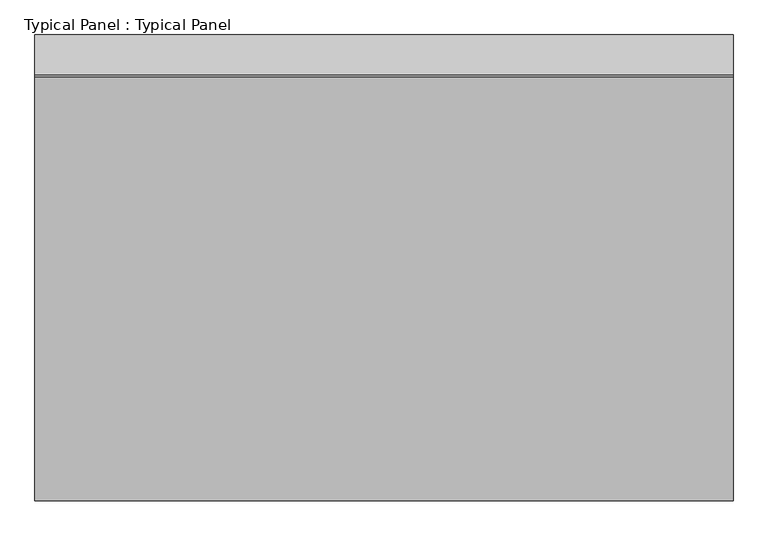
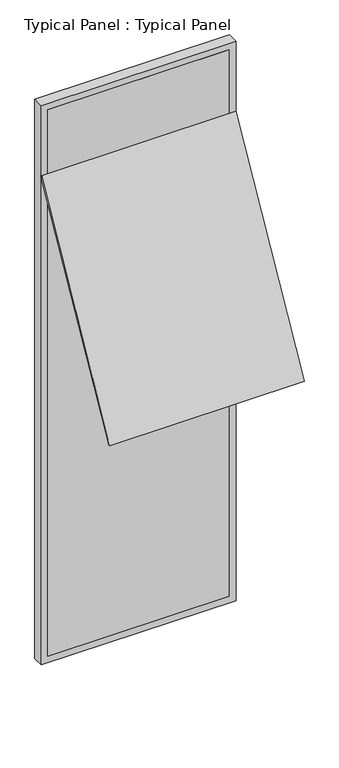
"""IFC4 building model written with IfcOpenShell, lengths in millimetres: plate geometry, Typical Panel : Typical Panel."""

from ifc_helpers import new_model, si_unit, frame, origin, place, context, project, spatial, polyline, outline, extrude, source, transform, mapped, element, save


def typical_panel_typical_panel_8e1d2641(model_context):
    return source(origin(), model_context, "Body", "SweptSolid", [
        extrude(outline(polyline([(0.0, -10.0), (0.0, 0.0), (1317.1916898, 0.0), (1317.1916898, -10.0), (0.0, -10.0)])), frame((658.5958449, -804.9358734, 2056.8774832), z_axis=(0.0, 0.48480962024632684, 0.8746197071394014), x_axis=(-1.0, 0.0, 0.0)), (0.0, 0.0, 1.0), 1650.0),
        extrude(outline(polyline([(0.0, -658.5958449), (0.0, 658.5958449), (4000.0, 658.5958449), (4000.0, -658.5958449), (0.0, -658.5958449)]), holes=[polyline([(45.0, 613.5958449), (45.0, -613.5958449), (3955.0, -613.5958449), (3955.0, 613.5958449), (45.0, 613.5958449)])]), frame((0.0, -1.5797986, 0.0), z_axis=(0.0, 1.0, 0.0), x_axis=(0.0, 0.0, 1.0)), (0.0, 0.0, 1.0), 75.0),
        extrude(outline(polyline([(613.5958449, -1.5797986), (-613.5958449, -1.5797986), (-613.5958449, 13.4202014), (613.5958449, 13.4202014), (613.5958449, -1.5797986)])), frame((0.0, 0.0, 45.0), z_axis=(0.0, 0.0, 1.0), x_axis=(1.0, 0.0, 0.0)), (0.0, 0.0, 1.0), 3910.0),
    ])


if __name__ == "__main__":
    model = new_model("IFC4")
    model_context = context("Model", 3, world=origin())
    ifc_project = project(units=[si_unit("LENGTHUNIT", "METRE", prefix="MILLI")], contexts=[model_context])
    site = spatial("IfcSite", under=ifc_project)
    building = spatial("IfcBuilding", under=site)
    placement = place(None, origin())
    typical_panel_typical_panel_shape = typical_panel_typical_panel_8e1d2641(model_context)
    element("IfcPlate", 1, ObjectType="Typical Panel : Typical Panel", at=placement, inside=building, context=model_context, shape_type="MappedRepresentation", body=[
        mapped(typical_panel_typical_panel_shape, transform((0.0, 0.0, 0.0), x_axis=(1.0, 0.0, 0.0), y_axis=(0.0, 1.0, 0.0), z_axis=(0.0, 0.0, 1.0))),
    ])
    save(model, "model.ifc")
